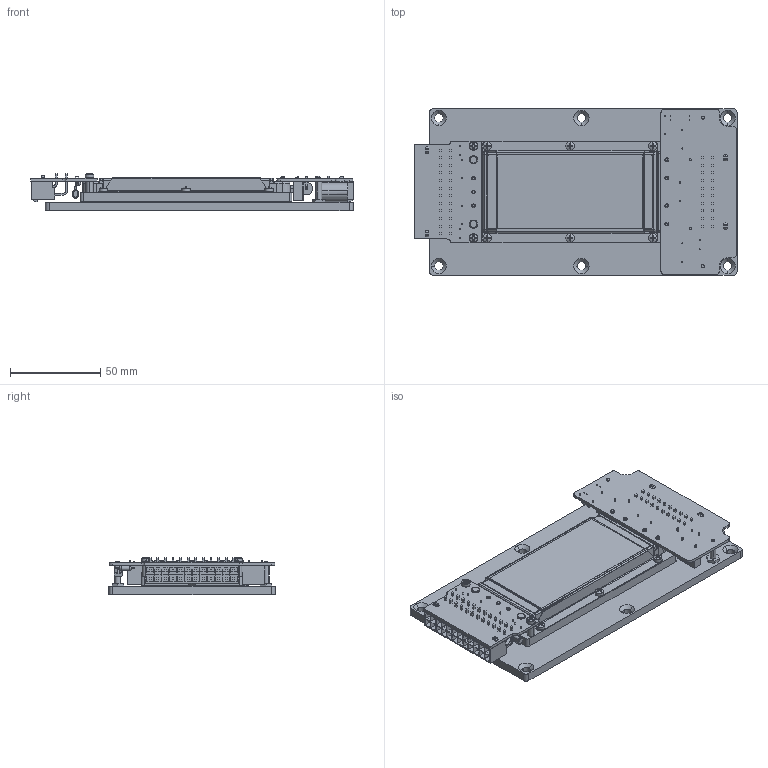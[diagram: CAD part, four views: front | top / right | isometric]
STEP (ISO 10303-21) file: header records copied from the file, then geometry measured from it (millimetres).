
FILE_DESCRIPTION (( 'STEP AP214' ), '1' );
FILE_NAME ('VA-D-PLUG-1OUT.STEP', '2011-02-18T23:53:07', ( 'Vicor Employee' ), ( 'Vicor Corporation' ), 'SwSTEP 2.0', 'SolidWorks 2011', '' );
FILE_SCHEMA (( 'AUTOMOTIVE_DESIGN' ));
Length unit declared in the file: inch
Products named in the file (1): VA-D-PLUG-1OUT
Bounding box: 178.53 x 92.28 x 20.68 mm (x, y, z)
Volume: 115746 mm3; surface area: 111554.6 mm2
Topology: 1 solids, 1 shells, 3231 faces, 8549 edges, 5494 vertices
Faces by surface type: plane 1990, cylinder 911, bspline 106, cone 106, torus 82, sphere 36
Entity records: 155095 total; most frequent: CARTESIAN_POINT 34154, ORIENTED_EDGE 16998, DIRECTION 15489, EDGE_CURVE 8499, LINE 5717, VECTOR 5717, VERTEX_POINT 5494, AXIS2_PLACEMENT_3D 4886
